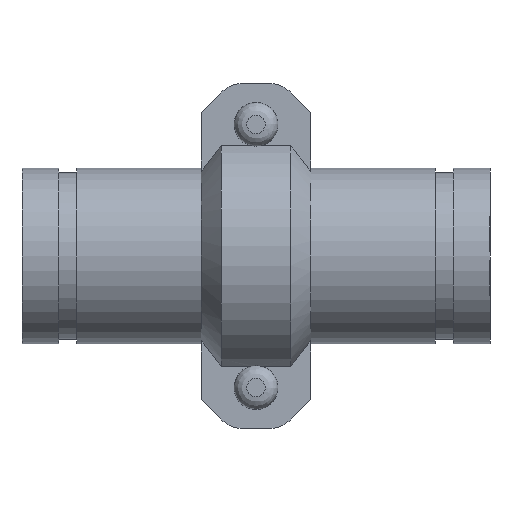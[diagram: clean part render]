
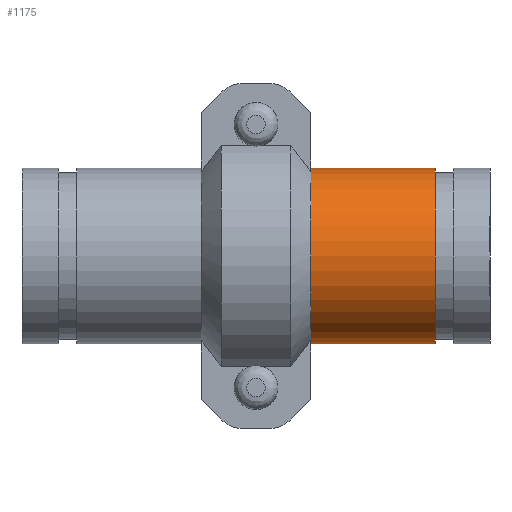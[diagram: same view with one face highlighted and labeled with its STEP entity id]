
A CAD part, front view. The second image highlights one B-rep face of the part: STEP entity #1175.
In plain terms, the highlighted cylindrical face has radius 38.1 mm (diameter 76.2 mm), a full revolution.
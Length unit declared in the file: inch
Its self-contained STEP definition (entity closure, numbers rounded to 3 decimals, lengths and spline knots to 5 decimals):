
#50=LINE('',#1858,#137);
#137=VECTOR('',#1515,1.5);
#224=CYLINDRICAL_SURFACE('',#1348,1.5);
#263=FACE_OUTER_BOUND('',#332,.T.);
#332=EDGE_LOOP('',(#773,#774,#775,#776,#777,#778));
#416=CIRCLE('',#1346,1.5);
#417=CIRCLE('',#1347,1.5);
#418=CIRCLE('',#1349,1.5);
#419=CIRCLE('',#1350,1.5);
#480=VERTEX_POINT('',#1849);
#481=VERTEX_POINT('',#1850);
#482=VERTEX_POINT('',#1854);
#483=VERTEX_POINT('',#1855);
#595=EDGE_CURVE('',#480,#481,#416,.T.);
#596=EDGE_CURVE('',#481,#480,#417,.T.);
#597=EDGE_CURVE('',#482,#483,#418,.T.);
#598=EDGE_CURVE('',#483,#482,#419,.T.);
#599=EDGE_CURVE('',#483,#481,#50,.T.);
#773=ORIENTED_EDGE('',*,*,#597,.F.);
#774=ORIENTED_EDGE('',*,*,#598,.F.);
#775=ORIENTED_EDGE('',*,*,#599,.T.);
#776=ORIENTED_EDGE('',*,*,#596,.T.);
#777=ORIENTED_EDGE('',*,*,#595,.T.);
#778=ORIENTED_EDGE('',*,*,#599,.F.);
#1175=ADVANCED_FACE('',(#263),#224,.T.);
#1346=AXIS2_PLACEMENT_3D('',#1851,#1505,#1506);
#1347=AXIS2_PLACEMENT_3D('',#1852,#1507,#1508);
#1348=AXIS2_PLACEMENT_3D('',#1853,#1509,#1510);
#1349=AXIS2_PLACEMENT_3D('',#1856,#1511,#1512);
#1350=AXIS2_PLACEMENT_3D('',#1857,#1513,#1514);
#1505=DIRECTION('center_axis',(-1.,0.,0.));
#1506=DIRECTION('ref_axis',(0.,0.,1.));
#1507=DIRECTION('center_axis',(-1.,0.,0.));
#1508=DIRECTION('ref_axis',(0.,0.,1.));
#1509=DIRECTION('center_axis',(-1.,0.,0.));
#1510=DIRECTION('ref_axis',(0.,1.,0.));
#1511=DIRECTION('center_axis',(-1.,0.,0.));
#1512=DIRECTION('ref_axis',(0.,0.,1.));
#1513=DIRECTION('center_axis',(-1.,0.,0.));
#1514=DIRECTION('ref_axis',(0.,0.,1.));
#1515=DIRECTION('',(1.,0.,0.));
#1849=CARTESIAN_POINT('',(1.062,1.5,0.));
#1850=CARTESIAN_POINT('',(1.062,-1.5,0.));
#1851=CARTESIAN_POINT('Origin',(1.062,0.,0.));
#1852=CARTESIAN_POINT('Origin',(1.062,0.,0.));
#1853=CARTESIAN_POINT('Origin',(0.,0.,
0.));
#1854=CARTESIAN_POINT('',(-1.062,1.5,0.));
#1855=CARTESIAN_POINT('',(-1.062,-1.5,0.));
#1856=CARTESIAN_POINT('Origin',(-1.062,0.,0.));
#1857=CARTESIAN_POINT('Origin',(-1.062,0.,0.));
#1858=CARTESIAN_POINT('',(0.,-1.5,0.));
